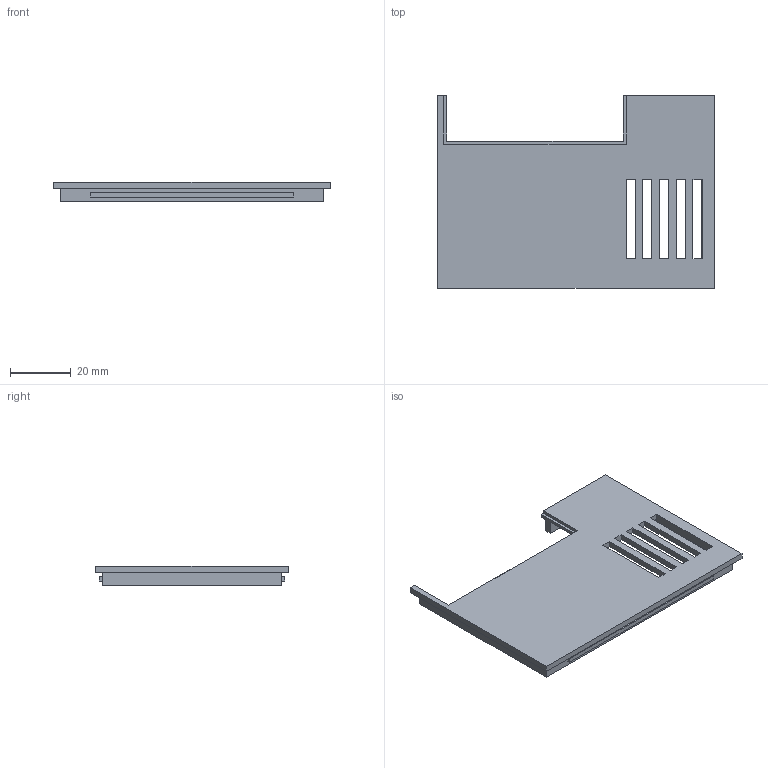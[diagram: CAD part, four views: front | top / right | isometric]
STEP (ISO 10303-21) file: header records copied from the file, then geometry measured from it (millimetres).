
FILE_DESCRIPTION(('FreeCAD Model'),'2;1');
FILE_NAME('Open CASCADE Shape Model','2026-09-06T15:19:34',('FreeCAD'),( 'FreeCAD'),'Open CASCADE STEP processor 7.8','FreeCAD','Unknown');
FILE_SCHEMA(('AUTOMOTIVE_DESIGN { 1 0 10303 214 1 1 1 1 }'));
Length unit declared in the file: millimetre
Products named in the file (1): Open CASCADE STEP translator 7.8 2
Bounding box: 91 x 63.5 x 6.5 mm (x, y, z)
Volume: 11002.5 mm3; surface area: 12549.3 mm2
Topology: 1 solids, 1 shells, 56 faces, 159 edges, 106 vertices
Faces by surface type: plane 56
Entity records: 1813 total; most frequent: CARTESIAN_POINT 322, ORIENTED_EDGE 318, DIRECTION 273, EDGE_CURVE 159, LINE 159, VECTOR 159, VERTEX_POINT 106, FACE_BOUND 67
